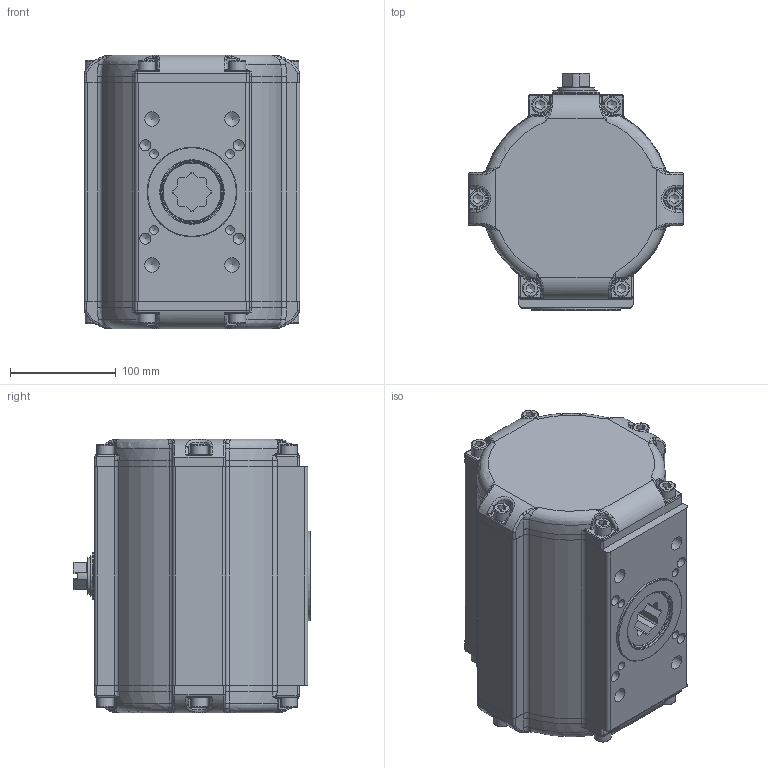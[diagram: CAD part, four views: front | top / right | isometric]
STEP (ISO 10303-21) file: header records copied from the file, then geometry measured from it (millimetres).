
FILE_DESCRIPTION((''),'2;1');
FILE_NAME('Z:\DOKUMENTATION ANTRIEBSPROGRAMM\Antriebe (neu)\BR16_SAD_SAF_90°\STEP-Dateien\33\SAD_33_BR16.stp','2017-06-27T08:33:17',('vmi'),(''),'Autodesk Inventor 2013','Autodesk Inventor 2013','');
FILE_SCHEMA(('AUTOMOTIVE_DESIGN { 1 0 10303 214 1 1 1 1 }'));
Length unit declared in the file: millimetre
Products named in the file (1): ENG-084099_Shrinkwrap_1
Bounding box: 204 x 224.5 x 259.2 mm (x, y, z)
Surface area: 289663.3 mm2 (no closed solid volume)
Topology: 0 solids, 24 shells, 647 faces, 1875 edges, 1197 vertices
Faces by surface type: plane 216, cylinder 160, bspline 156, torus 61, cone 54
Full cylindrical faces by diameter (mm): 2.5 x2, 4.134 x8, 4.917 x1, 8.376 x4, 10.376 x4, 11.445 x2, 13.835 x4, 16 x12, 26 x1, 32.5 x1, 34.8 x1, 45 x2, 60 x1, 85 x1
Entity records: 26070 total; most frequent: CARTESIAN_POINT 10318, ORIENTED_EDGE 3055, DIRECTION 2739, EDGE_CURVE 1736, VERTEX_POINT 1159, AXIS2_PLACEMENT_3D 1095, EDGE_LOOP 805, FACE_OUTER_BOUND 647
